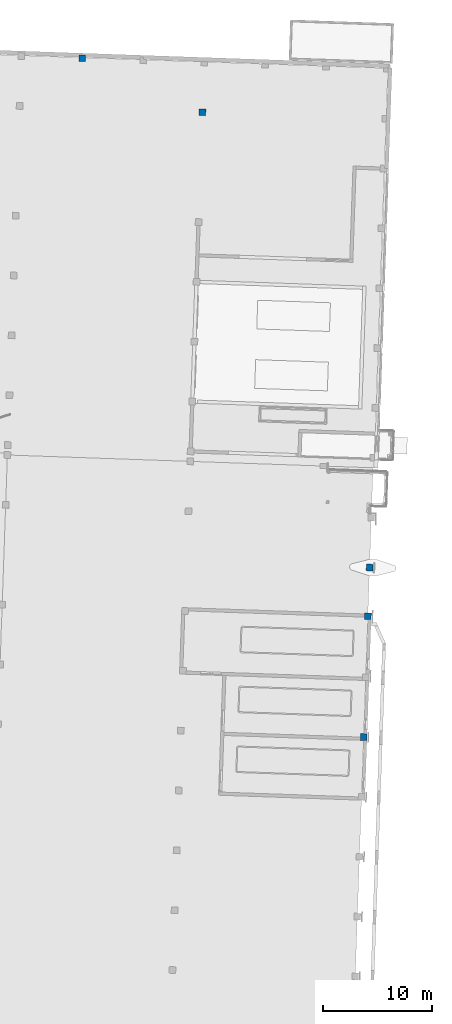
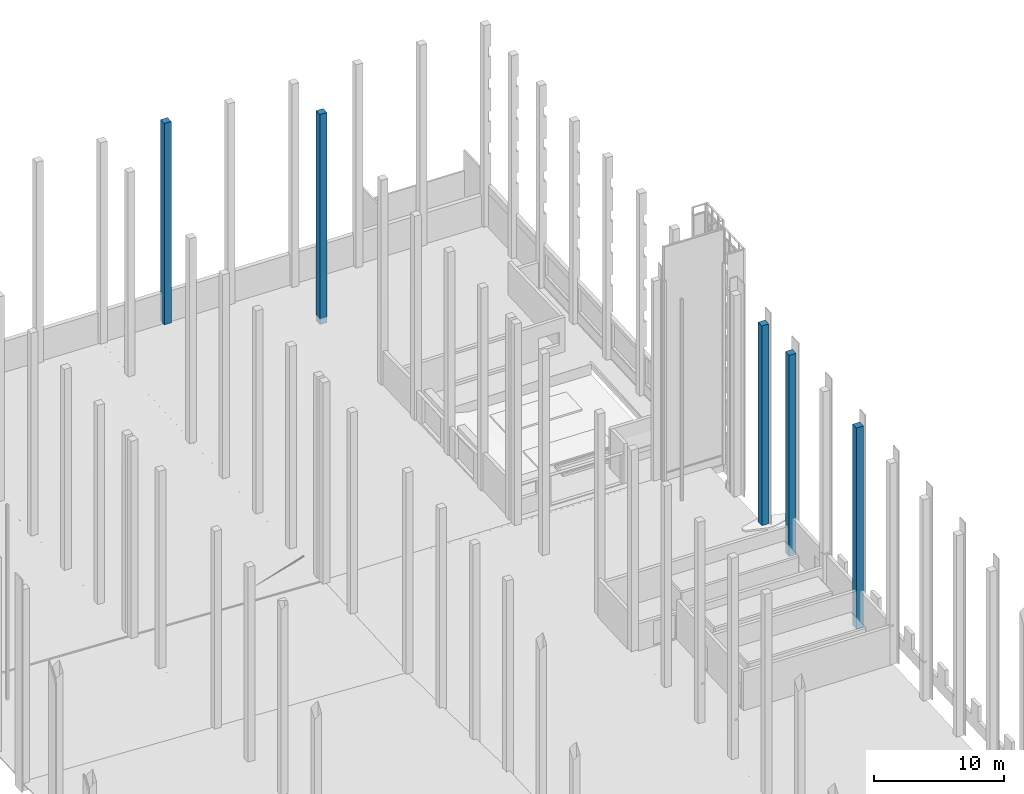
# One storey, part 5 of 44: 5 columns.
"""IFC2X3 building model written with IfcOpenShell, lengths in feet."""

from ifc_helpers import new_model, entity, si_unit, converted_unit, derived_unit, direction, frame, origin, origin_2d_with_axis, place, context, subcontext, project, spatial, rectangle, extrude, source, transform, mapped, material, type_object, type_shapes, element, save


model = new_model("IFC2X3")

# Units and contexts
model_context = context("Model", 3, precision=0.0001, world=origin(), true_north=direction((0.999390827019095, 0.0348994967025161)))
body_context = subcontext(model_context, "Body", "Model", "MODEL_VIEW")
ifc_project = project(units=[converted_unit("LENGTHUNIT", "FOOT", entity("IfcRatioMeasure", 0.3048), si_unit("LENGTHUNIT", "METRE"), dimensions=[1, 0, 0, 0, 0, 0, 0]), converted_unit("AREAUNIT", "SQUARE FOOT", entity("IfcRatioMeasure", 0.09290304), si_unit("AREAUNIT", "SQUARE_METRE"), dimensions=[2, 0, 0, 0, 0, 0, 0]), converted_unit("VOLUMEUNIT", "CUBIC FOOT", entity("IfcRatioMeasure", 0.028316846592), si_unit("VOLUMEUNIT", "CUBIC_METRE"), dimensions=[3, 0, 0, 0, 0, 0, 0]), converted_unit("PLANEANGLEUNIT", "DEGREE", entity("IfcRatioMeasure", 0.0174532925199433), si_unit("PLANEANGLEUNIT", "RADIAN"), dimensions=[0, 0, 0, 0, 0, 0, 0]), si_unit("MASSUNIT", "GRAM", prefix="KILO"), si_unit("TIMEUNIT", "SECOND"), si_unit("FREQUENCYUNIT", "HERTZ"), si_unit("THERMODYNAMICTEMPERATUREUNIT", "DEGREE_CELSIUS"), derived_unit("THERMALTRANSMITTANCEUNIT", [(si_unit("MASSUNIT", "GRAM", prefix="KILO"), 1), (si_unit("THERMODYNAMICTEMPERATUREUNIT", "KELVIN"), -1), (si_unit("TIMEUNIT", "SECOND"), -3)]), derived_unit("VOLUMETRICFLOWRATEUNIT", [(si_unit("LENGTHUNIT", "METRE"), 3), (si_unit("TIMEUNIT", "SECOND"), -1)]), si_unit("ELECTRICCURRENTUNIT", "AMPERE"), si_unit("ELECTRICVOLTAGEUNIT", "VOLT"), si_unit("POWERUNIT", "WATT"), si_unit("FORCEUNIT", "NEWTON"), si_unit("ILLUMINANCEUNIT", "LUX"), si_unit("LUMINOUSFLUXUNIT", "LUMEN"), si_unit("LUMINOUSINTENSITYUNIT", "CANDELA"), derived_unit("USERDEFINED", [(si_unit("MASSUNIT", "GRAM", prefix="KILO"), -1), (si_unit("LENGTHUNIT", "METRE"), -2), (si_unit("TIMEUNIT", "SECOND"), 3), (si_unit("LUMINOUSFLUXUNIT", "LUMEN"), 1)]), derived_unit("LINEARVELOCITYUNIT", [(si_unit("LENGTHUNIT", "METRE"), 1), (si_unit("TIMEUNIT", "SECOND"), -1)]), si_unit("PRESSUREUNIT", "PASCAL"), derived_unit("USERDEFINED", [(si_unit("LENGTHUNIT", "METRE"), -2), (si_unit("MASSUNIT", "GRAM", prefix="KILO"), 1), (si_unit("TIMEUNIT", "SECOND"), -2)])], contexts=[model_context])

# Site, building, storey
site_placement = place(None, frame((892.518771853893, 322.38689265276, 0.00393700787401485), z_axis=(0.0, 0.0, 1.0), x_axis=(0.0348994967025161, 0.999390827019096, 0.0)))
site = spatial("IfcSite", under=ifc_project, at=site_placement, Name="Default", CompositionType="ELEMENT")
building_placement = place(site_placement, origin())
building = spatial("IfcBuilding", under=site, at=building_placement, CompositionType="ELEMENT")
storey_placement = place(building_placement, frame((0.0, 0.0, 544.75)))
storey = spatial("IfcBuildingStorey", under=building, at=storey_placement, Name="Exist Garage - Ground Level", CompositionType="ELEMENT", Elevation=544.75)

# Columns
ifc_material = material(Name="Concrete - Cast-in-Place Concrete")
column_type_1 = type_object("IfcColumnType", Name="24 x 24", PredefinedType="COLUMN", material=ifc_material)
shared_shape_1 = source(origin(), body_context, "Body", "SweptSolid", [
    extrude(rectangle(XDim=2.0, YDim=2.0, at=origin_2d_with_axis()), frame((222.927293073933, 328.430620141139, 544.75), z_axis=(0.0, 0.0, 1.0), x_axis=(0.0, -1.0, 0.0)), (0.0, 0.0, 1.0), 62.25),
])
type_shapes(column_type_1, [shared_shape_1])
column_1_placement = place(storey_placement, frame((0.0, 0.0, -544.75)))
element("IfcColumn", 1, at=column_1_placement, inside=storey, type_object=column_type_1, material=ifc_material, Name="Concrete-Square-Column:24 x 24", ObjectType="24 x 24", context=body_context, shape_type="MappedRepresentation", body=[
    mapped(shared_shape_1, transform((0.0, 0.0, 0.0), scale=1.0)),
])
column_type_2 = type_object("IfcColumnType", Name="24 x 24", PredefinedType="COLUMN", material=ifc_material)
shared_shape_2 = source(origin(), body_context, "Body", "SweptSolid", [
    extrude(rectangle(XDim=2.0, YDim=2.0, at=origin_2d_with_axis()), frame((207.927293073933, 291.763953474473, 542.0), z_axis=(0.0, 0.0, 1.0), x_axis=(0.0, -1.0, 0.0)), (0.0, 0.0, 1.0), 65.0),
])
type_shapes(column_type_2, [shared_shape_2])
column_2_placement = place(storey_placement, frame((0.0, 0.0, -544.75)))
element("IfcColumn", 2, at=column_2_placement, inside=storey, type_object=column_type_2, material=ifc_material, Name="Concrete-Square-Column:24 x 24", ObjectType="24 x 24", context=body_context, shape_type="MappedRepresentation", body=[
    mapped(shared_shape_2, transform((0.0, 0.0, 0.0), scale=1.0)),
])
column_type_3 = type_object("IfcColumnType", Name="24 x 24", PredefinedType="COLUMN", material=ifc_material)
shared_shape_3 = source(origin(), body_context, "Body", "SweptSolid", [
    extrude(rectangle(XDim=2.0, YDim=2.0, at=origin_2d_with_axis()), frame((72.9272968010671, 236.763953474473, 545.25), z_axis=(0.0, 0.0, 1.0), x_axis=(0.0, -1.0, 0.0)), (0.0, 0.0, 1.0), 61.75),
])
type_shapes(column_type_3, [shared_shape_3])
column_3_placement = place(storey_placement, frame((0.0, 0.0, -544.75)))
element("IfcColumn", 3, at=column_3_placement, inside=storey, type_object=column_type_3, material=ifc_material, Name="Concrete-Square-Column:24 x 24", ObjectType="24 x 24", context=body_context, shape_type="MappedRepresentation", body=[
    mapped(shared_shape_3, transform((0.0, 0.0, 0.0), scale=1.0)),
])
column_type_4 = type_object("IfcColumnType", Name="24 x 24", PredefinedType="COLUMN", material=ifc_material)
shared_shape_4 = source(origin(), body_context, "Body", "SweptSolid", [
    extrude(rectangle(XDim=2.0, YDim=2.0, at=origin_2d_with_axis()), frame((58.2605875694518, 236.763953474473, 544.75), z_axis=(0.0, 0.0, 1.0), x_axis=(0.0, -1.0, 0.0)), (0.0, 0.0, 1.0), 62.25),
])
type_shapes(column_type_4, [shared_shape_4])
column_4_placement = place(storey_placement, frame((0.0, 0.0, -544.75)))
element("IfcColumn", 4, at=column_4_placement, inside=storey, type_object=column_type_4, material=ifc_material, Name="Concrete-Square-Column:24 x 24", ObjectType="24 x 24", context=body_context, shape_type="MappedRepresentation", body=[
    mapped(shared_shape_4, transform((0.0, 0.0, 0.0), scale=1.0)),
])
column_type_5 = type_object("IfcColumnType", Name="24 x 24", PredefinedType="COLUMN", material=ifc_material)
shared_shape_5 = source(origin(), body_context, "Body", "SweptSolid", [
    extrude(rectangle(XDim=2.0, YDim=2.0, at=origin_2d_with_axis()), frame((21.9272542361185, 236.763953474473, 544.75), z_axis=(0.0, 0.0, 1.0), x_axis=(0.0, -1.0, 0.0)), (0.0, 0.0, 1.0), 62.25),
])
type_shapes(column_type_5, [shared_shape_5])
column_5_placement = place(storey_placement, frame((0.0, 0.0, -544.75)))
element("IfcColumn", 5, at=column_5_placement, inside=storey, type_object=column_type_5, material=ifc_material, Name="Concrete-Square-Column:24 x 24", ObjectType="24 x 24", context=body_context, shape_type="MappedRepresentation", body=[
    mapped(shared_shape_5, transform((0.0, 0.0, 0.0), scale=1.0)),
])

save(model, "model.ifc")
